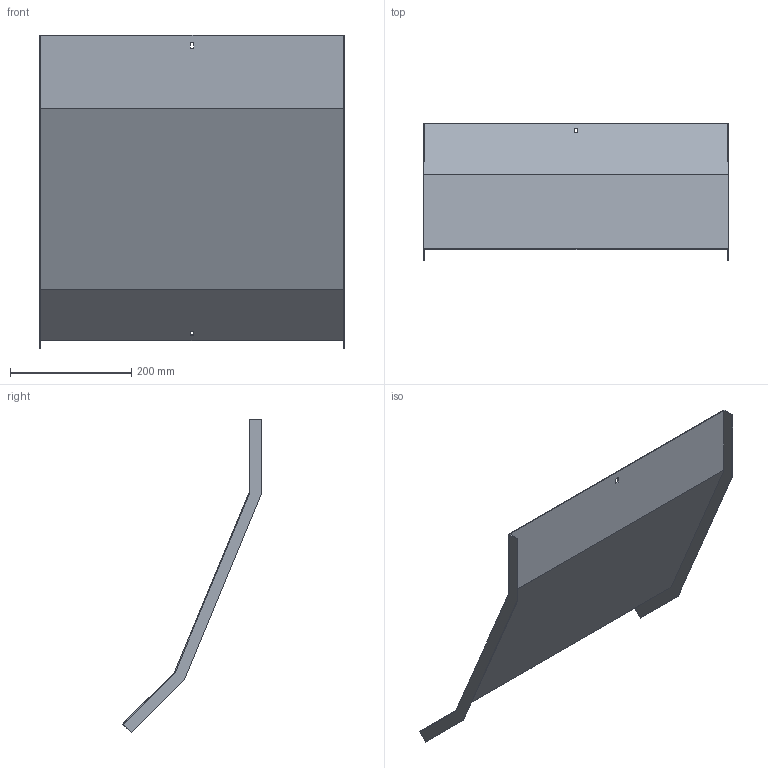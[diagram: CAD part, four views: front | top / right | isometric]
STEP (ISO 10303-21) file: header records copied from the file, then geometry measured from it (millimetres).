
FILE_DESCRIPTION (( 'STEP AP214' ), '1' );
FILE_NAME ('31N5R500_H150.step', '2025-02-21T14:28:42', ( '' ), ( '' ), 'SwSTEP 2.0', 'SolidWorks 2023', '' );
FILE_SCHEMA (( 'AUTOMOTIVE_DESIGN' ));
Length unit declared in the file: millimetre
Products named in the file (1): 31N5R500_H150
Bounding box: 503 x 228.46 x 517.41 mm (x, y, z)
Volume: 456779.4 mm3; surface area: 612487.2 mm2
Topology: 1 solids, 1 shells, 26 faces, 72 edges, 48 vertices
Faces by surface type: plane 26
Entity records: 847 total; most frequent: CARTESIAN_POINT 147, ORIENTED_EDGE 144, DIRECTION 126, LINE 72, EDGE_CURVE 72, VECTOR 72, VERTEX_POINT 48, EDGE_LOOP 30
